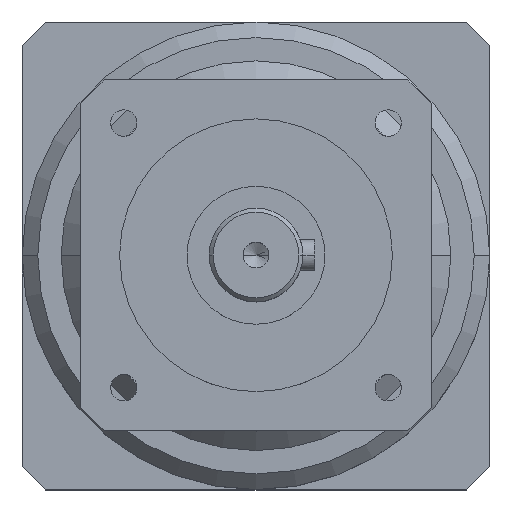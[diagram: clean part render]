
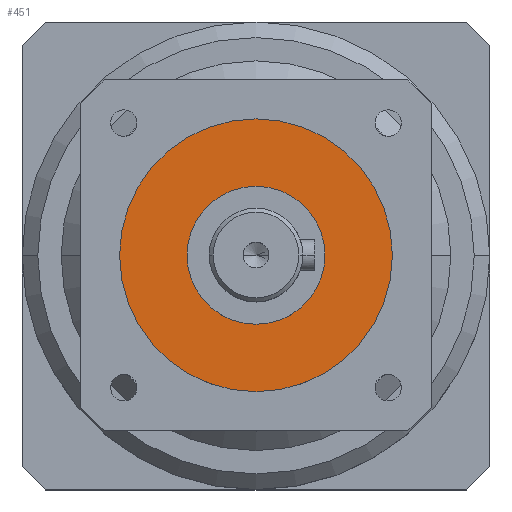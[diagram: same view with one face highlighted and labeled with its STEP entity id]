
A CAD part, top view. The second image highlights one B-rep face of the part: STEP entity #451.
In plain terms, the highlighted planar face has unit normal (0, 0, 1).
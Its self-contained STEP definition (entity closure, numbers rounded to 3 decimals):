
#272 = EDGE_CURVE ( 'NONE', #381, #382, #1485, .T. ) ;
#320 = VERTEX_POINT ( 'NONE', #1610 ) ;
#381 = VERTEX_POINT ( 'NONE', #2391 ) ;
#382 = VERTEX_POINT ( 'NONE', #2557 ) ;
#386 = VERTEX_POINT ( 'NONE', #2512 ) ;
#387 = EDGE_CURVE ( 'NONE', #320, #386, #2505, .T. ) ;
#443 = ORIENTED_EDGE ( 'NONE', *, *, #631, .F. ) ;
#451 = ADVANCED_FACE ( 'NONE', ( #2422, #2417 ), #2607, .T. ) ;
#506 = ORIENTED_EDGE ( 'NONE', *, *, #635, .T. ) ;
#507 = ORIENTED_EDGE ( 'NONE', *, *, #387, .F. ) ;
#514 = EDGE_LOOP ( 'NONE', ( #443, #507 ) ) ;
#630 = ORIENTED_EDGE ( 'NONE', *, *, #272, .T. ) ;
#631 = EDGE_CURVE ( 'NONE', #386, #320, #2067, .T. ) ;
#635 = EDGE_CURVE ( 'NONE', #382, #381, #2136, .T. ) ;
#651 = EDGE_LOOP ( 'NONE', ( #506, #630 ) ) ;
#1476 = DIRECTION ( 'NONE',  ( 1., 0., 0. ) ) ;
#1477 = DIRECTION ( 'NONE',  ( 0., 0., 1. ) ) ;
#1478 = CARTESIAN_POINT ( 'NONE',  ( 0., 0., 3. ) ) ;
#1485 = CIRCLE ( 'NONE', #1486, 17.5 ) ;
#1486 = AXIS2_PLACEMENT_3D ( 'NONE', #1478, #1477, #1476 ) ;
#1610 = CARTESIAN_POINT ( 'NONE',  ( 8.85, 0., 3. ) ) ;
#2058 = CARTESIAN_POINT ( 'NONE',  ( 0., 0., 3. ) ) ;
#2059 = AXIS2_PLACEMENT_3D ( 'NONE', #2058, #2065, #2064 ) ;
#2064 = DIRECTION ( 'NONE',  ( 1., 0., 0. ) ) ;
#2065 = DIRECTION ( 'NONE',  ( 0., 0., 1. ) ) ;
#2066 = AXIS2_PLACEMENT_3D ( 'NONE', #2135, #2134, #2133 ) ;
#2067 = CIRCLE ( 'NONE', #2059, 8.85 ) ;
#2133 = DIRECTION ( 'NONE',  ( 1., 0., 0. ) ) ;
#2134 = DIRECTION ( 'NONE',  ( 0., 0., 1. ) ) ;
#2135 = CARTESIAN_POINT ( 'NONE',  ( 0., 0., 3. ) ) ;
#2136 = CIRCLE ( 'NONE', #2066, 17.5 ) ;
#2391 = CARTESIAN_POINT ( 'NONE',  ( 17.5, 0., 3. ) ) ;
#2413 = DIRECTION ( 'NONE',  ( 1., 0., 0. ) ) ;
#2414 = DIRECTION ( 'NONE',  ( 0., 0., 1. ) ) ;
#2417 = FACE_BOUND ( 'NONE', #514, .T. ) ;
#2418 = CARTESIAN_POINT ( 'NONE',  ( 0., 0., 3. ) ) ;
#2422 = FACE_OUTER_BOUND ( 'NONE', #651, .T. ) ;
#2449 = AXIS2_PLACEMENT_3D ( 'NONE', #2418, #2414, #2413 ) ;
#2502 = DIRECTION ( 'NONE',  ( 1., 0., 0. ) ) ;
#2503 = DIRECTION ( 'NONE',  ( 0., 0., 1. ) ) ;
#2504 = CARTESIAN_POINT ( 'NONE',  ( 0., 0., 3. ) ) ;
#2505 = CIRCLE ( 'NONE', #2559, 8.85 ) ;
#2512 = CARTESIAN_POINT ( 'NONE',  ( -8.85, 0., 3. ) ) ;
#2557 = CARTESIAN_POINT ( 'NONE',  ( -17.5, 0., 3. ) ) ;
#2559 = AXIS2_PLACEMENT_3D ( 'NONE', #2504, #2503, #2502 ) ;
#2607 = PLANE ( 'NONE',  #2449 ) ;
